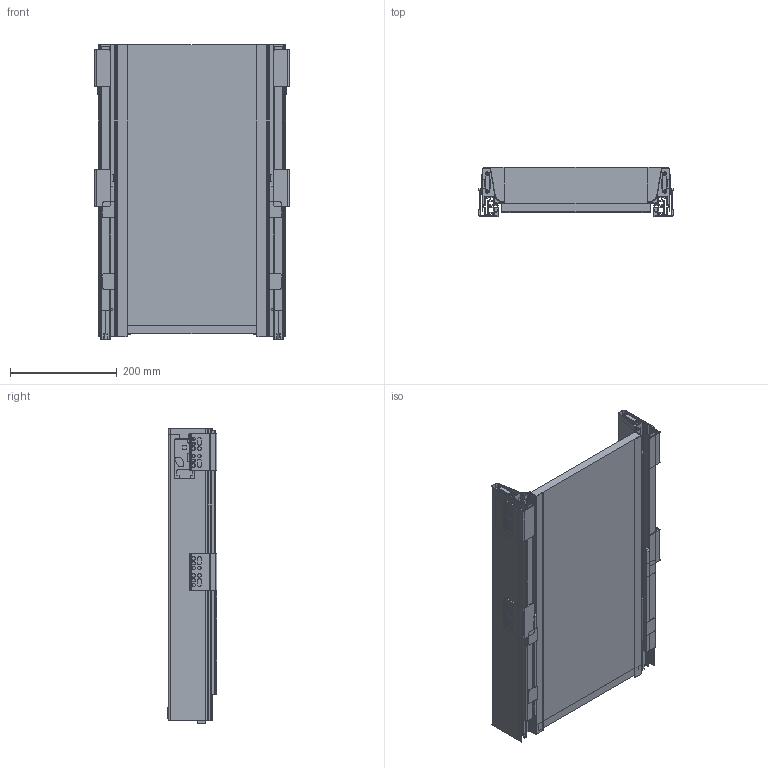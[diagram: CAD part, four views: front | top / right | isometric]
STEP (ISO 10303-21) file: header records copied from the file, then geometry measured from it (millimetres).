
FILE_DESCRIPTION(/* description */ (''),/* implementation_level */ '2;1');
FILE_NAME(/* name */ 'D:\$Workingspace\Designs\Katalog\Cadsoft\GTV Prwadnice II\PB-D(KW)\PB-D(KW)\MB bryły 3D\PB-D-KPL550A.stp',/* time_stamp */ '2017-02-09T08:38:27+01:00',/* author */ ('tomaszw'),/* organization */ (''),/* preprocessor_version */ 'ST-DEVELOPER v16.1',/* originating_system */ 'Autodesk Inventor 2016',/* authorisation */ '');
FILE_SCHEMA (('CONFIG_CONTROL_DESIGN'));
Length unit declared in the file: millimetre
Products named in the file (16): PB-D-PRSPO-CL-550; PB-D-PRSPO-CR-550; PB-D-PRSPO-DL-550; PB-D-PRSPO-DR-550; PB-D-PR-DWL-550; PB-D-PR-DWR-550; PB-D-PRSPO-550; PB-M-550-L; PB-M-550-R; MF-01; MB; MST-L-R; MST-L-L; B_L; A_550; PB-D(KW)
Assembly tree (17 placements, depth 3):
  PB-D(KW)
    PB-D-PRSPO-550
      PB-D-PRSPO-CL-550
      PB-D-PRSPO-CR-550
      PB-D-PRSPO-DL-550
      PB-D-PRSPO-DR-550
      PB-D-PR-DWL-550
      PB-D-PR-DWR-550
    PB-M-550-L
    PB-M-550-R
    MF-01  x2
    MB  x2
    MST-L-R
    MST-L-L
    B_L
    A_550
Bounding box: 364 x 93.25 x 552 mm (x, y, z)
Volume: 4391181.5 mm3; surface area: 1611816.6 mm2
Topology: 28 solids, 28 shells, 1278 faces, 3370 edges, 2142 vertices
Faces by surface type: plane 684, cylinder 450, torus 64, cone 48, sphere 32
Full cylindrical faces by diameter (mm): 4 x4, 6.5 x32, 8 x2
Entity records: 37389 total; most frequent: DIRECTION 6282, CARTESIAN_POINT 6253, ORIENTED_EDGE 6072, EDGE_CURVE 3034, LINE 2156, VECTOR 2156, AXIS2_PLACEMENT_3D 2063, VERTEX_POINT 1994
